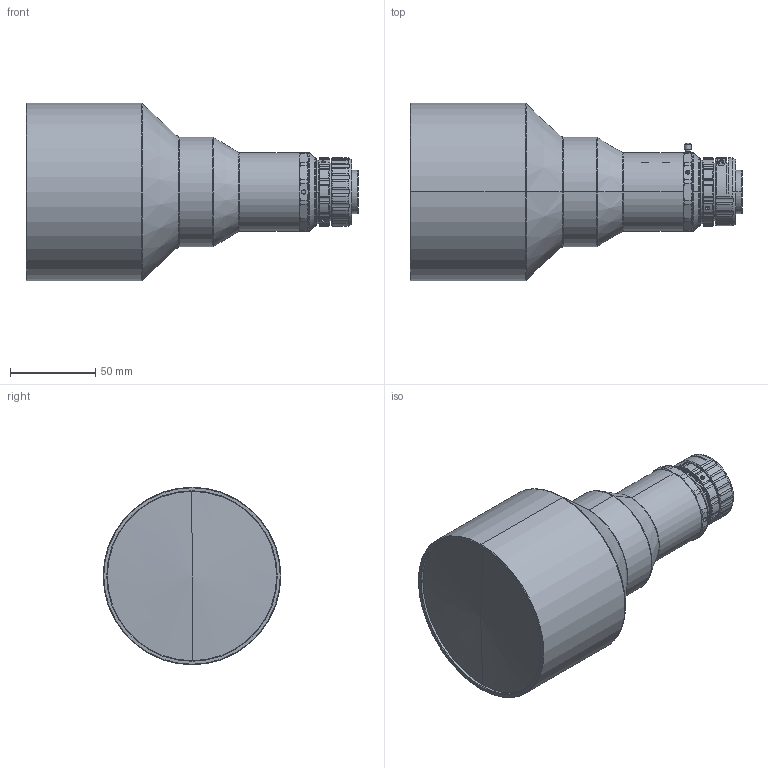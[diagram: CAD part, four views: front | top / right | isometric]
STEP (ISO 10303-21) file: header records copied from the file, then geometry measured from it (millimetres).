
FILE_DESCRIPTION (( 'STEP AP203' ), '1' );
FILE_NAME ('DTCA121-80-G-AL.STEP', '2023-03-02T12:25:02', ( '' ), ( '' ), 'SwSTEP 2.0', 'SolidWorks 2017', '' );
FILE_SCHEMA (( 'CONFIG_CONTROL_DESIGN' ));
Length unit declared in the file: millimetre
Products named in the file (1): DTCA121-80-G-AL
Bounding box: 194.54 x 104 x 104 mm (x, y, z)
Volume: 890966.4 mm3; surface area: 61360.4 mm2
Topology: 1 solids, 1 shells, 335 faces, 845 edges, 526 vertices
Faces by surface type: cylinder 171, cone 108, plane 46, bspline 10
Entity records: 11095 total; most frequent: CARTESIAN_POINT 3218, ORIENTED_EDGE 1670, DIRECTION 1605, EDGE_CURVE 835, AXIS2_PLACEMENT_3D 669, VERTEX_POINT 526, EDGE_LOOP 369, CIRCLE 343
